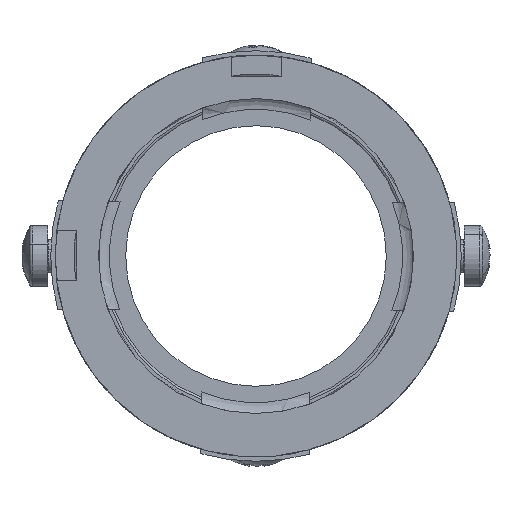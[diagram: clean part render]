
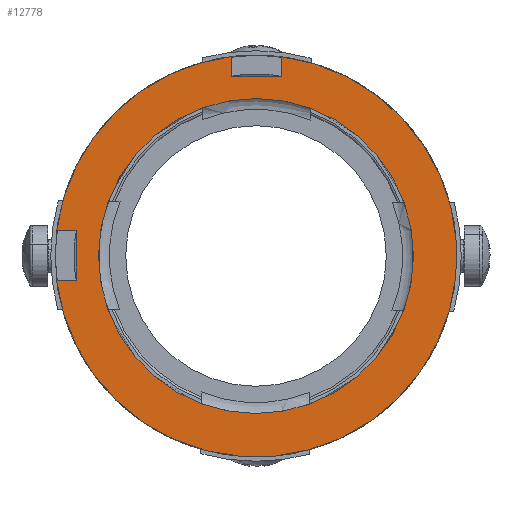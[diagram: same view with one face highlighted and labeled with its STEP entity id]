
A CAD part, front view. The second image highlights one B-rep face of the part: STEP entity #12778.
In plain terms, the highlighted planar face has unit normal (0, -1, 0).
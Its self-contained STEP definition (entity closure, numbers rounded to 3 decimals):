
#13 = AXIS2_PLACEMENT_3D ( 'NONE', #4011, #1351, #6252 ) ;
#136 = CIRCLE ( 'NONE', #794, 14.5 ) ;
#243 = LINE ( 'NONE', #13371, #613 ) ;
#613 = VECTOR ( 'NONE', #13388, 1000. ) ;
#629 = VECTOR ( 'NONE', #12412, 1000. ) ;
#794 = AXIS2_PLACEMENT_3D ( 'NONE', #13350, #7423, #2990 ) ;
#1351 = DIRECTION ( 'NONE',  ( 0., -1., 0. ) ) ;
#1557 = ORIENTED_EDGE ( 'NONE', *, *, #14388, .F. ) ;
#1637 = AXIS2_PLACEMENT_3D ( 'NONE', #8388, #8330, #8275 ) ;
#1715 = FACE_OUTER_BOUND ( 'NONE', #14863, .T. ) ;
#1726 = ORIENTED_EDGE ( 'NONE', *, *, #14678, .F. ) ;
#1942 = ORIENTED_EDGE ( 'NONE', *, *, #9382, .T. ) ;
#1979 = VECTOR ( 'NONE', #9254, 1000. ) ;
#2588 = DIRECTION ( 'NONE',  ( -1., 0., 0. ) ) ;
#2690 = EDGE_CURVE ( 'NONE', #6305, #4338, #2710, .T. ) ;
#2710 = CIRCLE ( 'NONE', #1637, 18.5 ) ;
#2813 = ORIENTED_EDGE ( 'NONE', *, *, #8740, .F. ) ;
#2860 = CARTESIAN_POINT ( 'NONE',  ( -2.3, 0., -16.5 ) ) ;
#2876 = DIRECTION ( 'NONE',  ( 0., 0., -1. ) ) ;
#2905 = CARTESIAN_POINT ( 'NONE',  ( 16.5, 0., 2.3 ) ) ;
#2990 = DIRECTION ( 'NONE',  ( 0., 0., -1. ) ) ;
#3176 = ORIENTED_EDGE ( 'NONE', *, *, #7169, .F. ) ;
#3192 = CARTESIAN_POINT ( 'NONE',  ( -2.3, 0., -16.5 ) ) ;
#3648 = CARTESIAN_POINT ( 'NONE',  ( 2.3, 0., -20.929 ) ) ;
#4011 = CARTESIAN_POINT ( 'NONE',  ( 0., 0., 0. ) ) ;
#4269 = ORIENTED_EDGE ( 'NONE', *, *, #5265, .F. ) ;
#4338 = VERTEX_POINT ( 'NONE', #13660 ) ;
#4476 = CARTESIAN_POINT ( 'NONE',  ( 2.3, 0., -16.5 ) ) ;
#4634 = CARTESIAN_POINT ( 'NONE',  ( 0., 0., 14.5 ) ) ;
#4637 = EDGE_LOOP ( 'NONE', ( #12095, #3176 ) ) ;
#4690 = VERTEX_POINT ( 'NONE', #2860 ) ;
#5216 = VERTEX_POINT ( 'NONE', #4476 ) ;
#5265 = EDGE_CURVE ( 'NONE', #5216, #4690, #9727, .T. ) ;
#5486 = LINE ( 'NONE', #9430, #1979 ) ;
#5658 = CIRCLE ( 'NONE', #6549, 18.5 ) ;
#6248 = VERTEX_POINT ( 'NONE', #8003 ) ;
#6252 = DIRECTION ( 'NONE',  ( 0., 0., -1. ) ) ;
#6305 = VERTEX_POINT ( 'NONE', #12374 ) ;
#6536 = VECTOR ( 'NONE', #2588, 1000. ) ;
#6549 = AXIS2_PLACEMENT_3D ( 'NONE', #9022, #8385, #8331 ) ;
#6573 = VERTEX_POINT ( 'NONE', #7358 ) ;
#6686 = VERTEX_POINT ( 'NONE', #8677 ) ;
#6912 = VERTEX_POINT ( 'NONE', #4634 ) ;
#7155 = EDGE_CURVE ( 'NONE', #6573, #6912, #9666, .T. ) ;
#7169 = EDGE_CURVE ( 'NONE', #6912, #6573, #136, .T. ) ;
#7358 = CARTESIAN_POINT ( 'NONE',  ( 0., 0., -14.5 ) ) ;
#7423 = DIRECTION ( 'NONE',  ( 0., -1., 0. ) ) ;
#7527 = LINE ( 'NONE', #3648, #13583 ) ;
#8003 = CARTESIAN_POINT ( 'NONE',  ( 18.356, 0., -2.3 ) ) ;
#8275 = DIRECTION ( 'NONE',  ( 0., 0., -1. ) ) ;
#8330 = DIRECTION ( 'NONE',  ( 0., -1., 0. ) ) ;
#8331 = DIRECTION ( 'NONE',  ( 0., 0., -1. ) ) ;
#8385 = DIRECTION ( 'NONE',  ( 0., -1., 0. ) ) ;
#8388 = CARTESIAN_POINT ( 'NONE',  ( 0., 0., 0. ) ) ;
#8454 = ORIENTED_EDGE ( 'NONE', *, *, #9593, .F. ) ;
#8677 = CARTESIAN_POINT ( 'NONE',  ( 16.5, 0., 2.3 ) ) ;
#8740 = EDGE_CURVE ( 'NONE', #9625, #5216, #7527, .T. ) ;
#9022 = CARTESIAN_POINT ( 'NONE',  ( 0., 0., 0. ) ) ;
#9141 = ORIENTED_EDGE ( 'NONE', *, *, #2690, .T. ) ;
#9254 = DIRECTION ( 'NONE',  ( -1., 0., 0. ) ) ;
#9382 = EDGE_CURVE ( 'NONE', #9625, #6248, #5658, .T. ) ;
#9430 = CARTESIAN_POINT ( 'NONE',  ( 20.234, 0., 2.3 ) ) ;
#9593 = EDGE_CURVE ( 'NONE', #10597, #6248, #243, .T. ) ;
#9625 = VERTEX_POINT ( 'NONE', #13351 ) ;
#9666 = CIRCLE ( 'NONE', #13, 14.5 ) ;
#9727 = LINE ( 'NONE', #3192, #6536 ) ;
#9770 = VECTOR ( 'NONE', #2876, 1000. ) ;
#10014 = EDGE_CURVE ( 'NONE', #6686, #10597, #13016, .T. ) ;
#10146 = LINE ( 'NONE', #12383, #629 ) ;
#10371 = ORIENTED_EDGE ( 'NONE', *, *, #10014, .F. ) ;
#10400 = DIRECTION ( 'NONE',  ( 0., 0., -1. ) ) ;
#10406 = DIRECTION ( 'NONE',  ( 0., -1., 0. ) ) ;
#10453 = CARTESIAN_POINT ( 'NONE',  ( 14.5, 0., 0. ) ) ;
#10494 = PLANE ( 'NONE',  #15308 ) ;
#10597 = VERTEX_POINT ( 'NONE', #12397 ) ;
#12095 = ORIENTED_EDGE ( 'NONE', *, *, #7155, .F. ) ;
#12374 = CARTESIAN_POINT ( 'NONE',  ( 18.356, 0., 2.3 ) ) ;
#12383 = CARTESIAN_POINT ( 'NONE',  ( -2.3, 0., -20.929 ) ) ;
#12397 = CARTESIAN_POINT ( 'NONE',  ( 16.5, 0., -2.3 ) ) ;
#12412 = DIRECTION ( 'NONE',  ( 0., 0., -1. ) ) ;
#12778 = ADVANCED_FACE ( 'NONE', ( #1715, #13650 ), #10494, .T. ) ;
#13016 = LINE ( 'NONE', #2905, #9770 ) ;
#13350 = CARTESIAN_POINT ( 'NONE',  ( 0., 0., 0. ) ) ;
#13351 = CARTESIAN_POINT ( 'NONE',  ( 2.3, 0., -18.356 ) ) ;
#13371 = CARTESIAN_POINT ( 'NONE',  ( 20.234, 0., -2.3 ) ) ;
#13388 = DIRECTION ( 'NONE',  ( 1., 0., 0. ) ) ;
#13583 = VECTOR ( 'NONE', #14205, 1000. ) ;
#13650 = FACE_BOUND ( 'NONE', #4637, .T. ) ;
#13660 = CARTESIAN_POINT ( 'NONE',  ( -2.3, 0., -18.356 ) ) ;
#14205 = DIRECTION ( 'NONE',  ( 0., 0., 1. ) ) ;
#14388 = EDGE_CURVE ( 'NONE', #4690, #4338, #10146, .T. ) ;
#14678 = EDGE_CURVE ( 'NONE', #6305, #6686, #5486, .T. ) ;
#14863 = EDGE_LOOP ( 'NONE', ( #1557, #4269, #2813, #1942, #8454, #10371, #1726, #9141 ) ) ;
#15308 = AXIS2_PLACEMENT_3D ( 'NONE', #10453, #10406, #10400 ) ;
